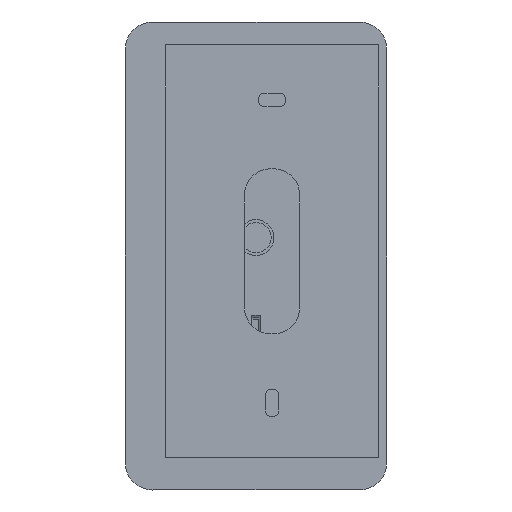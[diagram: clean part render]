
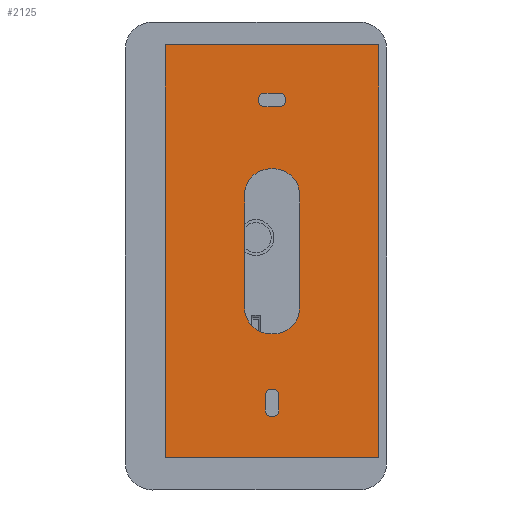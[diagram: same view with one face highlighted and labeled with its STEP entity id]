
A CAD part, front view. The second image highlights one B-rep face of the part: STEP entity #2125.
In plain terms, the highlighted planar face has unit normal (0, -1, 0) as drawn and (0, 0, -1) by its records, which use the part's own axes.
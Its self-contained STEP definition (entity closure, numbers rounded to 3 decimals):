
#50=FACE_BOUND('',#338,.T.);
#51=FACE_BOUND('',#339,.T.);
#52=FACE_BOUND('',#340,.T.);
#114=PLANE('',#2293);
#208=FACE_OUTER_BOUND('',#337,.T.);
#337=EDGE_LOOP('',(#1738,#1739,#1740,#1741));
#338=EDGE_LOOP('',(#1742,#1743,#1744,#1745,#1746,#1747,#1748,#1749));
#339=EDGE_LOOP('',(#1750,#1751,#1752,#1753,#1754,#1755,#1756,#1757));
#340=EDGE_LOOP('',(#1758,#1759,#1760,#1761,#1762,#1763,#1764,#1765));
#492=LINE('',#3244,#710);
#498=LINE('',#3259,#716);
#502=LINE('',#3272,#720);
#508=LINE('',#3287,#726);
#512=LINE('',#3300,#730);
#518=LINE('',#3315,#736);
#523=LINE('',#3331,#741);
#526=LINE('',#3337,#744);
#529=LINE('',#3343,#747);
#532=LINE('',#3347,#750);
#533=LINE('',#3350,#751);
#534=LINE('',#3351,#752);
#535=LINE('',#3352,#753);
#536=LINE('',#3353,#754);
#537=LINE('',#3354,#755);
#538=LINE('',#3355,#756);
#710=VECTOR('',#2617,304.8);
#716=VECTOR('',#2633,304.8);
#720=VECTOR('',#2647,304.8);
#726=VECTOR('',#2663,304.8);
#730=VECTOR('',#2677,304.8);
#736=VECTOR('',#2693,304.8);
#741=VECTOR('',#2708,304.8);
#744=VECTOR('',#2713,304.8);
#747=VECTOR('',#2718,304.8);
#750=VECTOR('',#2723,304.8);
#751=VECTOR('',#2728,304.8);
#752=VECTOR('',#2729,304.8);
#753=VECTOR('',#2730,304.8);
#754=VECTOR('',#2731,304.8);
#755=VECTOR('',#2732,304.8);
#756=VECTOR('',#2733,304.8);
#871=CIRCLE('',#2260,2.4);
#872=CIRCLE('',#2262,2.4);
#873=CIRCLE('',#2265,2.4);
#874=CIRCLE('',#2267,2.4);
#875=CIRCLE('',#2270,2.4);
#876=CIRCLE('',#2272,2.4);
#877=CIRCLE('',#2275,2.4);
#878=CIRCLE('',#2277,2.4);
#879=CIRCLE('',#2280,9.5);
#880=CIRCLE('',#2282,9.5);
#881=CIRCLE('',#2285,9.5);
#882=CIRCLE('',#2287,9.5);
#1004=VERTEX_POINT('',#3241);
#1005=VERTEX_POINT('',#3243);
#1006=VERTEX_POINT('',#3247);
#1007=VERTEX_POINT('',#3251);
#1008=VERTEX_POINT('',#3253);
#1009=VERTEX_POINT('',#3257);
#1010=VERTEX_POINT('',#3261);
#1011=VERTEX_POINT('',#3265);
#1012=VERTEX_POINT('',#3269);
#1013=VERTEX_POINT('',#3271);
#1014=VERTEX_POINT('',#3275);
#1015=VERTEX_POINT('',#3279);
#1016=VERTEX_POINT('',#3281);
#1017=VERTEX_POINT('',#3285);
#1018=VERTEX_POINT('',#3289);
#1019=VERTEX_POINT('',#3293);
#1020=VERTEX_POINT('',#3297);
#1021=VERTEX_POINT('',#3299);
#1022=VERTEX_POINT('',#3303);
#1023=VERTEX_POINT('',#3307);
#1024=VERTEX_POINT('',#3309);
#1025=VERTEX_POINT('',#3313);
#1026=VERTEX_POINT('',#3317);
#1027=VERTEX_POINT('',#3321);
#1030=VERTEX_POINT('',#3328);
#1031=VERTEX_POINT('',#3330);
#1033=VERTEX_POINT('',#3336);
#1035=VERTEX_POINT('',#3342);
#1242=EDGE_CURVE('',#1005,#1004,#492,.T.);
#1245=EDGE_CURVE('',#1004,#1006,#871,.T.);
#1247=EDGE_CURVE('',#1008,#1007,#872,.T.);
#1250=EDGE_CURVE('',#1007,#1009,#498,.T.);
#1252=EDGE_CURVE('',#1009,#1010,#873,.T.);
#1253=EDGE_CURVE('',#1011,#1005,#874,.T.);
#1256=EDGE_CURVE('',#1013,#1012,#502,.T.);
#1259=EDGE_CURVE('',#1012,#1014,#875,.T.);
#1261=EDGE_CURVE('',#1016,#1015,#876,.T.);
#1264=EDGE_CURVE('',#1015,#1017,#508,.T.);
#1266=EDGE_CURVE('',#1017,#1018,#877,.T.);
#1267=EDGE_CURVE('',#1019,#1013,#878,.T.);
#1270=EDGE_CURVE('',#1021,#1020,#512,.T.);
#1273=EDGE_CURVE('',#1020,#1022,#879,.T.);
#1275=EDGE_CURVE('',#1024,#1023,#880,.T.);
#1278=EDGE_CURVE('',#1023,#1025,#518,.T.);
#1280=EDGE_CURVE('',#1025,#1026,#881,.T.);
#1281=EDGE_CURVE('',#1027,#1021,#882,.T.);
#1285=EDGE_CURVE('',#1031,#1030,#523,.T.);
#1288=EDGE_CURVE('',#1033,#1031,#526,.T.);
#1291=EDGE_CURVE('',#1035,#1033,#529,.T.);
#1294=EDGE_CURVE('',#1030,#1035,#532,.T.);
#1295=EDGE_CURVE('',#1026,#1027,#533,.T.);
#1296=EDGE_CURVE('',#1022,#1024,#534,.T.);
#1297=EDGE_CURVE('',#1010,#1011,#535,.T.);
#1298=EDGE_CURVE('',#1006,#1008,#536,.T.);
#1299=EDGE_CURVE('',#1018,#1019,#537,.T.);
#1300=EDGE_CURVE('',#1014,#1016,#538,.T.);
#1738=ORIENTED_EDGE('',*,*,#1294,.T.);
#1739=ORIENTED_EDGE('',*,*,#1291,.T.);
#1740=ORIENTED_EDGE('',*,*,#1288,.T.);
#1741=ORIENTED_EDGE('',*,*,#1285,.T.);
#1742=ORIENTED_EDGE('',*,*,#1295,.T.);
#1743=ORIENTED_EDGE('',*,*,#1281,.T.);
#1744=ORIENTED_EDGE('',*,*,#1270,.T.);
#1745=ORIENTED_EDGE('',*,*,#1273,.T.);
#1746=ORIENTED_EDGE('',*,*,#1296,.T.);
#1747=ORIENTED_EDGE('',*,*,#1275,.T.);
#1748=ORIENTED_EDGE('',*,*,#1278,.T.);
#1749=ORIENTED_EDGE('',*,*,#1280,.T.);
#1750=ORIENTED_EDGE('',*,*,#1297,.T.);
#1751=ORIENTED_EDGE('',*,*,#1253,.T.);
#1752=ORIENTED_EDGE('',*,*,#1242,.T.);
#1753=ORIENTED_EDGE('',*,*,#1245,.T.);
#1754=ORIENTED_EDGE('',*,*,#1298,.T.);
#1755=ORIENTED_EDGE('',*,*,#1247,.T.);
#1756=ORIENTED_EDGE('',*,*,#1250,.T.);
#1757=ORIENTED_EDGE('',*,*,#1252,.T.);
#1758=ORIENTED_EDGE('',*,*,#1299,.T.);
#1759=ORIENTED_EDGE('',*,*,#1267,.T.);
#1760=ORIENTED_EDGE('',*,*,#1256,.T.);
#1761=ORIENTED_EDGE('',*,*,#1259,.T.);
#1762=ORIENTED_EDGE('',*,*,#1300,.T.);
#1763=ORIENTED_EDGE('',*,*,#1261,.T.);
#1764=ORIENTED_EDGE('',*,*,#1264,.T.);
#1765=ORIENTED_EDGE('',*,*,#1266,.T.);
#2125=ADVANCED_FACE('',(#208,#50,#51,#52),#114,.T.);
#2260=AXIS2_PLACEMENT_3D('',#3249,#2622,#2623);
#2262=AXIS2_PLACEMENT_3D('',#3254,#2627,#2628);
#2265=AXIS2_PLACEMENT_3D('',#3263,#2637,#2638);
#2267=AXIS2_PLACEMENT_3D('',#3266,#2641,#2642);
#2270=AXIS2_PLACEMENT_3D('',#3277,#2652,#2653);
#2272=AXIS2_PLACEMENT_3D('',#3282,#2657,#2658);
#2275=AXIS2_PLACEMENT_3D('',#3291,#2667,#2668);
#2277=AXIS2_PLACEMENT_3D('',#3294,#2671,#2672);
#2280=AXIS2_PLACEMENT_3D('',#3305,#2682,#2683);
#2282=AXIS2_PLACEMENT_3D('',#3310,#2687,#2688);
#2285=AXIS2_PLACEMENT_3D('',#3319,#2697,#2698);
#2287=AXIS2_PLACEMENT_3D('',#3322,#2701,#2702);
#2293=AXIS2_PLACEMENT_3D('',#3349,#2726,#2727);
#2617=DIRECTION('',(1.,0.,0.));
#2622=DIRECTION('center_axis',(0.,0.,1.));
#2623=DIRECTION('ref_axis',(0.,-1.,0.));
#2627=DIRECTION('center_axis',(0.,0.,1.));
#2628=DIRECTION('ref_axis',(0.,-1.,0.));
#2633=DIRECTION('',(-1.,0.,0.));
#2637=DIRECTION('center_axis',(0.,0.,1.));
#2638=DIRECTION('ref_axis',(0.,-1.,0.));
#2641=DIRECTION('center_axis',(0.,0.,1.));
#2642=DIRECTION('ref_axis',(0.,-1.,0.));
#2647=DIRECTION('',(0.,-1.,0.));
#2652=DIRECTION('center_axis',(0.,0.,1.));
#2653=DIRECTION('ref_axis',(0.,-1.,0.));
#2657=DIRECTION('center_axis',(0.,0.,1.));
#2658=DIRECTION('ref_axis',(0.,-1.,0.));
#2663=DIRECTION('',(0.,1.,0.));
#2667=DIRECTION('center_axis',(0.,0.,1.));
#2668=DIRECTION('ref_axis',(0.,-1.,0.));
#2671=DIRECTION('center_axis',(0.,0.,1.));
#2672=DIRECTION('ref_axis',(0.,-1.,0.));
#2677=DIRECTION('',(0.,-1.,0.));
#2682=DIRECTION('center_axis',(0.,0.,1.));
#2683=DIRECTION('ref_axis',(0.,-1.,0.));
#2687=DIRECTION('center_axis',(0.,0.,1.));
#2688=DIRECTION('ref_axis',(0.,-1.,0.));
#2693=DIRECTION('',(0.,1.,0.));
#2697=DIRECTION('center_axis',(0.,0.,1.));
#2698=DIRECTION('ref_axis',(0.,-1.,0.));
#2701=DIRECTION('center_axis',(0.,0.,1.));
#2702=DIRECTION('ref_axis',(0.,-1.,0.));
#2708=DIRECTION('',(0.,1.,0.));
#2713=DIRECTION('',(-1.,0.,0.));
#2718=DIRECTION('',(0.,-1.,0.));
#2723=DIRECTION('',(1.,0.,0.));
#2726=DIRECTION('center_axis',(0.,0.,-1.));
#2727=DIRECTION('ref_axis',(0.,1.,0.));
#2728=DIRECTION('',(-1.,0.,0.));
#2729=DIRECTION('',(1.,0.,0.));
#2730=DIRECTION('',(0.,-1.,0.));
#2731=DIRECTION('',(0.,1.,0.));
#2732=DIRECTION('',(-1.,0.,0.));
#2733=DIRECTION('',(1.,0.,0.));
#3241=CARTESIAN_POINT('',(-3.247,52.5,-40.));
#3243=CARTESIAN_POINT('',(-8.447,52.5,-40.));
#3244=CARTESIAN_POINT('',(-8.447,52.5,-40.));
#3247=CARTESIAN_POINT('',(-0.847,54.9,-40.));
#3249=CARTESIAN_POINT('Origin',(-3.247,54.9,-40.));
#3251=CARTESIAN_POINT('',(-3.247,57.5,-40.));
#3253=CARTESIAN_POINT('',(-0.847,55.1,-40.));
#3254=CARTESIAN_POINT('Origin',(-3.247,55.1,-40.));
#3257=CARTESIAN_POINT('',(-8.447,57.5,-40.));
#3259=CARTESIAN_POINT('',(-3.247,57.5,-40.));
#3261=CARTESIAN_POINT('',(-10.847,55.1,-40.));
#3263=CARTESIAN_POINT('Origin',(-8.447,55.1,-40.));
#3265=CARTESIAN_POINT('',(-10.847,54.9,-40.));
#3266=CARTESIAN_POINT('Origin',(-8.447,54.9,-40.));
#3269=CARTESIAN_POINT('',(-8.347,-57.6,-40.));
#3271=CARTESIAN_POINT('',(-8.347,-52.4,-40.));
#3272=CARTESIAN_POINT('',(-8.347,-52.4,-40.));
#3275=CARTESIAN_POINT('',(-5.947,-60.,-40.));
#3277=CARTESIAN_POINT('Origin',(-5.947,-57.6,-40.));
#3279=CARTESIAN_POINT('',(-3.347,-57.6,-40.));
#3281=CARTESIAN_POINT('',(-5.747,-60.,-40.));
#3282=CARTESIAN_POINT('Origin',(-5.747,-57.6,-40.));
#3285=CARTESIAN_POINT('',(-3.347,-52.4,-40.));
#3287=CARTESIAN_POINT('',(-3.347,-57.6,-40.));
#3289=CARTESIAN_POINT('',(-5.747,-50.,-40.));
#3291=CARTESIAN_POINT('Origin',(-5.747,-52.4,-40.));
#3293=CARTESIAN_POINT('',(-5.947,-50.,-40.));
#3294=CARTESIAN_POINT('Origin',(-5.947,-52.4,-40.));
#3297=CARTESIAN_POINT('',(-15.847,-20.5,-40.));
#3299=CARTESIAN_POINT('',(-15.847,20.5,-40.));
#3300=CARTESIAN_POINT('',(-15.847,20.5,-40.));
#3303=CARTESIAN_POINT('',(-6.347,-30.,-40.));
#3305=CARTESIAN_POINT('Origin',(-6.347,-20.5,-40.));
#3307=CARTESIAN_POINT('',(4.153,-20.5,-40.));
#3309=CARTESIAN_POINT('',(-5.347,-30.,-40.));
#3310=CARTESIAN_POINT('Origin',(-5.347,-20.5,-40.));
#3313=CARTESIAN_POINT('',(4.153,20.5,-40.));
#3315=CARTESIAN_POINT('',(4.153,-20.5,-40.));
#3317=CARTESIAN_POINT('',(-5.347,30.,-40.));
#3319=CARTESIAN_POINT('Origin',(-5.347,20.5,-40.));
#3321=CARTESIAN_POINT('',(-6.347,30.,-40.));
#3322=CARTESIAN_POINT('Origin',(-6.347,20.5,-40.));
#3328=CARTESIAN_POINT('',(-44.597,75.,-40.));
#3330=CARTESIAN_POINT('',(-44.597,-75.,-40.));
#3331=CARTESIAN_POINT('',(-44.597,-75.,-40.));
#3336=CARTESIAN_POINT('',(32.903,-75.,-40.));
#3337=CARTESIAN_POINT('',(32.903,-75.,-40.));
#3342=CARTESIAN_POINT('',(32.903,75.,-40.));
#3343=CARTESIAN_POINT('',(32.903,75.,-40.));
#3347=CARTESIAN_POINT('',(-44.597,75.,-40.));
#3349=CARTESIAN_POINT('Origin',(-5.847,0.,
-40.));
#3350=CARTESIAN_POINT('',(-5.347,30.,-40.));
#3351=CARTESIAN_POINT('',(-6.347,-30.,-40.));
#3352=CARTESIAN_POINT('',(-10.847,55.1,-40.));
#3353=CARTESIAN_POINT('',(-0.847,54.9,-40.));
#3354=CARTESIAN_POINT('',(-5.747,-50.,-40.));
#3355=CARTESIAN_POINT('',(-5.947,-60.,-40.));
